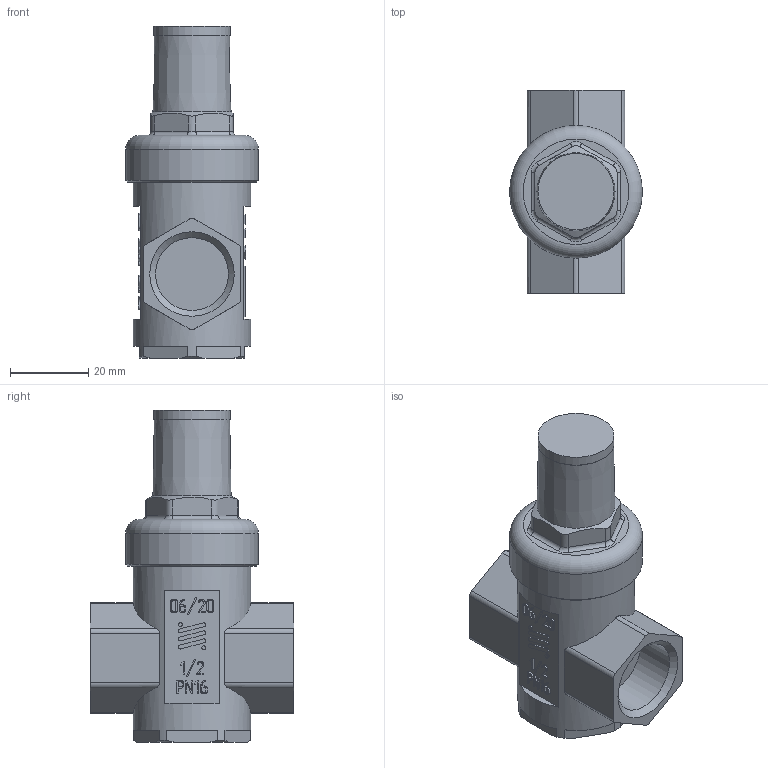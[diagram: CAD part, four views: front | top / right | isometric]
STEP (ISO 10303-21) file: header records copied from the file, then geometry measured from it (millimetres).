
FILE_DESCRIPTION(('STEP AP242'), '1');
FILE_NAME('VT.087.N.0445', '', ('UNSPECIFIED'), ('UNSPECIFIED'), 'C3D Converter', 'C3D Toolkit', '');
FILE_SCHEMA(('AP242_MANAGED_MODEL_BASED_3D_ENGINEERING_MIM_LF { 1 0 10303 442 1 1 4 }'));
Length unit declared in the file: millimetre
Bounding box: 34 x 52 x 85 mm (x, y, z)
Volume: 57227.3 mm3; surface area: 12744.6 mm2
Topology: 1 solids, 1 shells, 645 faces, 1778 edges, 1185 vertices
Faces by surface type: extrusion 310, plane 279, cylinder 38, cone 11, torus 7
Full cylindrical faces by diameter (mm): 1 x2, 18.632 x2, 19.5 x1, 30 x1, 34 x1
Entity records: 22161 total; most frequent: CARTESIAN_POINT 6935, ORIENTED_EDGE 3508, DIRECTION 2181, EDGE_CURVE 1754, VECTOR 1305, VERTEX_POINT 1173, LINE 995, B_SPLINE_CURVE_WITH_KNOTS 969
